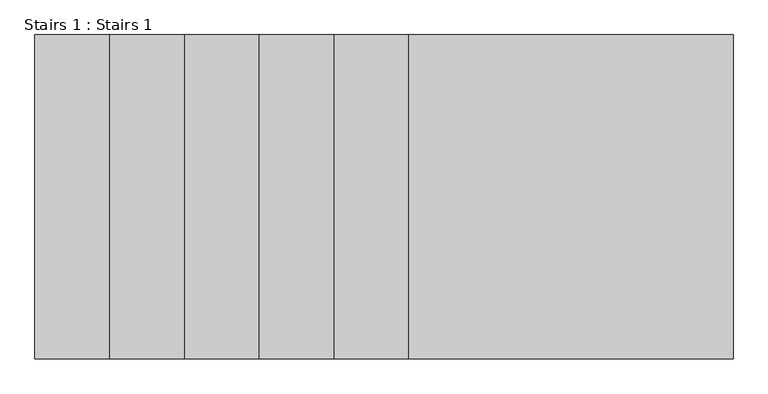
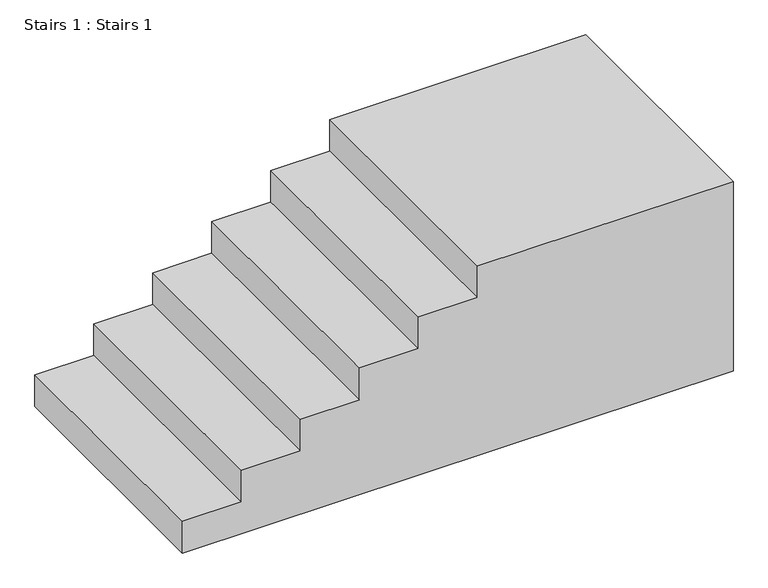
"""IFC4 building model written with IfcOpenShell, lengths in millimetres: stair geometry, Stairs 1 : Stairs 1."""

from ifc_helpers import new_model, si_unit, frame, origin, place, context, project, spatial, polyline, outline, extrude, source, transform, mapped, element, save


def stairs_1_stairs_1_c7833afe(model_context):
    return source(origin(), model_context, "Body", "SweptSolid", [
        extrude(outline(polyline([(2020.0, 24543.1337784), (2020.0, 23243.1337784), (1850.0, 23243.1337784), (1850.0, 22943.1337784), (1680.0, 22943.1337784), (1680.0, 22643.1337784), (1510.0, 22643.1337784), (1510.0, 22343.1337784), (1340.0, 22343.1337784), (1340.0, 22043.1337784), (1170.0, 22043.1337784), (1170.0, 21743.1337784), (1000.0, 21743.1337784), (1000.0, 24543.1337784), (2020.0, 24543.1337784)])), frame((0.0, 6384.657391, 0.0), z_axis=(0.0, 1.0, 0.0), x_axis=(0.0, 0.0, 1.0)), (0.0, 0.0, 1.0), 1300.0),
    ])


if __name__ == "__main__":
    model = new_model("IFC4")
    model_context = context("Model", 3, world=origin())
    ifc_project = project(units=[si_unit("LENGTHUNIT", "METRE", prefix="MILLI")], contexts=[model_context])
    site = spatial("IfcSite", under=ifc_project)
    building = spatial("IfcBuilding", under=site)
    placement = place(None, origin())
    stairs_1_stairs_1_shape = stairs_1_stairs_1_c7833afe(model_context)
    element("IfcStair", 1, ObjectType="Stairs 1 : Stairs 1", at=placement, inside=building, context=model_context, shape_type="MappedRepresentation", body=[
        mapped(stairs_1_stairs_1_shape, transform((0.0, 0.0, 0.0), x_axis=(1.0, 0.0, 0.0), y_axis=(0.0, 1.0, 0.0), z_axis=(0.0, 0.0, 1.0))),
    ])
    save(model, "model.ifc")
